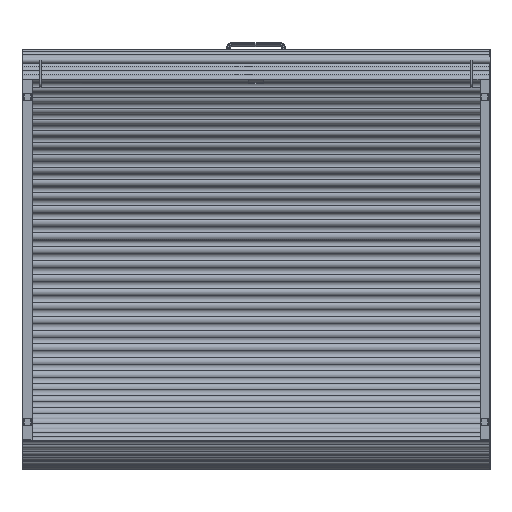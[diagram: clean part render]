
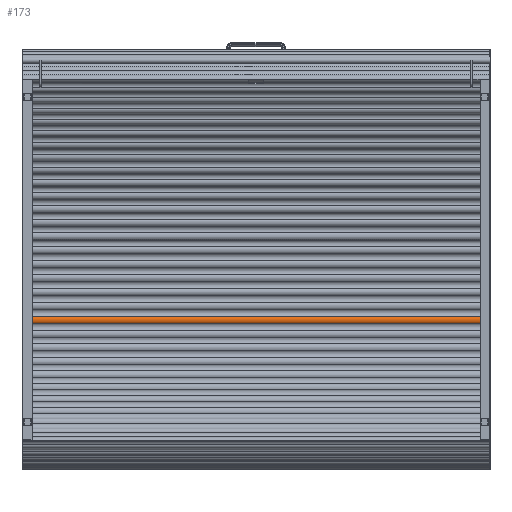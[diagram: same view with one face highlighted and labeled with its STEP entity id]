
A CAD part, front view. The second image highlights one B-rep face of the part: STEP entity #173.
In plain terms, the highlighted cylindrical face has radius 25.556 mm (diameter 51.111 mm), a partial arc.
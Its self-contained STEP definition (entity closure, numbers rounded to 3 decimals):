
#173 = ADVANCED_FACE ( 'NONE', ( #2827 ), #1665, .T. ) ;
#286 = DIRECTION ( 'NONE',  ( 0., 0., -1. ) ) ;
#639 = CARTESIAN_POINT ( 'NONE',  ( -1274., 1457.422, -308.547 ) ) ;
#749 = LINE ( 'NONE', #10707, #12475 ) ;
#821 = EDGE_CURVE ( 'NONE', #9445, #13232, #980, .T. ) ;
#980 = LINE ( 'NONE', #14766, #2023 ) ;
#1472 = AXIS2_PLACEMENT_3D ( 'NONE', #4207, #2737, #7711 ) ;
#1505 = DIRECTION ( 'NONE',  ( 1., 0., 0. ) ) ;
#1665 = CYLINDRICAL_SURFACE ( 'NONE', #1472, 25.556 ) ;
#1994 = EDGE_CURVE ( 'NONE', #12863, #5095, #749, .T. ) ;
#2023 = VECTOR ( 'NONE', #12400, 1000. ) ;
#2359 = CARTESIAN_POINT ( 'NONE',  ( 1274., 1471.827, -329.657 ) ) ;
#2527 = EDGE_CURVE ( 'NONE', #12863, #13232, #7952, .T. ) ;
#2737 = DIRECTION ( 'NONE',  ( 1., 0., 0. ) ) ;
#2827 = FACE_OUTER_BOUND ( 'NONE', #12671, .T. ) ;
#3793 = ORIENTED_EDGE ( 'NONE', *, *, #11821, .T. ) ;
#3795 = CARTESIAN_POINT ( 'NONE',  ( -1274., 1471.827, -329.657 ) ) ;
#4207 = CARTESIAN_POINT ( 'NONE',  ( -1275., 1471.827, -329.657 ) ) ;
#4414 = CARTESIAN_POINT ( 'NONE',  ( -1274., 1454.118, -348.082 ) ) ;
#5095 = VERTEX_POINT ( 'NONE', #639 ) ;
#5665 = CARTESIAN_POINT ( 'NONE',  ( 1274., 1454.118, -348.082 ) ) ;
#7711 = DIRECTION ( 'NONE',  ( 0., 0., -1. ) ) ;
#7952 = CIRCLE ( 'NONE', #12635, 25.556 ) ;
#8009 = ORIENTED_EDGE ( 'NONE', *, *, #2527, .F. ) ;
#9445 = VERTEX_POINT ( 'NONE', #4414 ) ;
#9630 = DIRECTION ( 'NONE',  ( 0., 0., -1. ) ) ;
#10707 = CARTESIAN_POINT ( 'NONE',  ( 1275., 1457.422, -308.547 ) ) ;
#11821 = EDGE_CURVE ( 'NONE', #5095, #9445, #13679, .T. ) ;
#12400 = DIRECTION ( 'NONE',  ( 1., 0., 0. ) ) ;
#12475 = VECTOR ( 'NONE', #15683, 1000. ) ;
#12635 = AXIS2_PLACEMENT_3D ( 'NONE', #2359, #14745, #9630 ) ;
#12671 = EDGE_LOOP ( 'NONE', ( #8009, #14639, #3793, #15223 ) ) ;
#12863 = VERTEX_POINT ( 'NONE', #14956 ) ;
#13232 = VERTEX_POINT ( 'NONE', #5665 ) ;
#13679 = CIRCLE ( 'NONE', #14697, 25.556 ) ;
#14639 = ORIENTED_EDGE ( 'NONE', *, *, #1994, .T. ) ;
#14697 = AXIS2_PLACEMENT_3D ( 'NONE', #3795, #1505, #286 ) ;
#14745 = DIRECTION ( 'NONE',  ( 1., 0., 0. ) ) ;
#14766 = CARTESIAN_POINT ( 'NONE',  ( -1274., 1454.118, -348.082 ) ) ;
#14956 = CARTESIAN_POINT ( 'NONE',  ( 1274., 1457.422, -308.547 ) ) ;
#15223 = ORIENTED_EDGE ( 'NONE', *, *, #821, .T. ) ;
#15683 = DIRECTION ( 'NONE',  ( -1., 0., 0. ) ) ;
